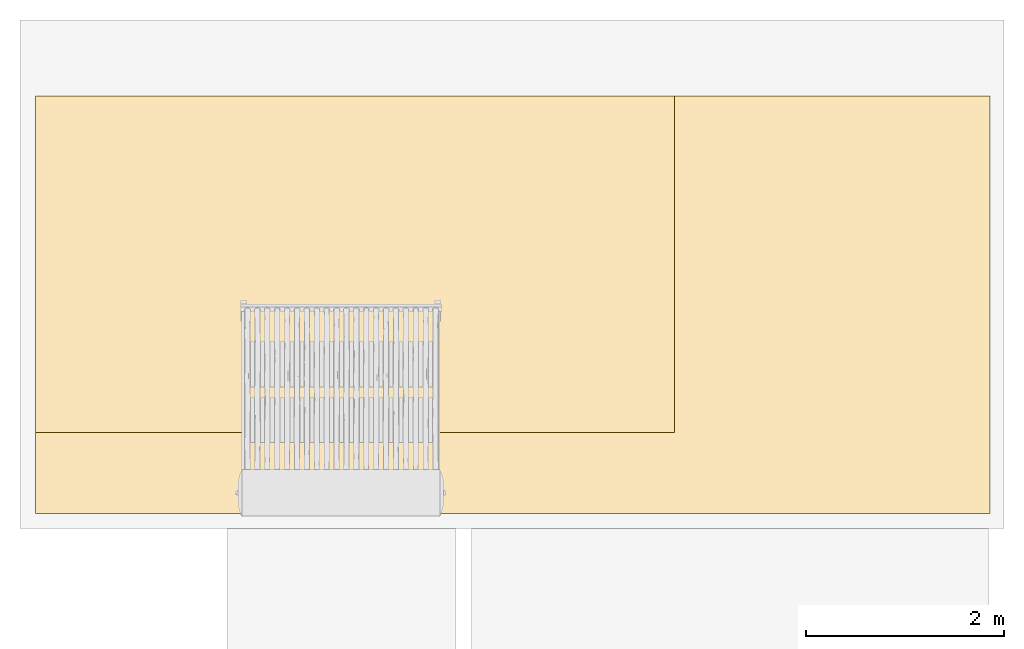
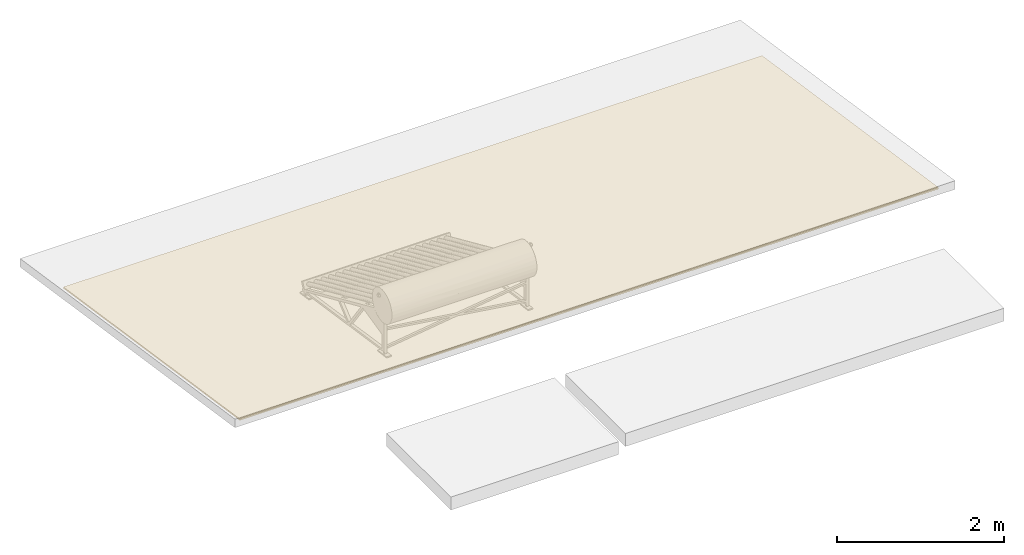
# One storey, part 2 of 2: 2 coverings.
"""IFC2X3 building model written with IfcOpenShell, lengths in metres."""

from ifc_helpers import new_model, entity, si_unit, converted_unit, derived_unit, direction, frame, origin, place, context, subcontext, project, spatial, faceted_brep, material, layer, layer_set, layer_usage, type_object, element, save


model = new_model("IFC2X3")

# Units and contexts
model_context = context("Model", 3, precision=1e-05, world=origin(), true_north=direction((6.12303176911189e-17, 1.0)))
body_context = subcontext(model_context, "Body", "Model", "MODEL_VIEW")
ifc_project = project(units=[si_unit("LENGTHUNIT", "METRE"), si_unit("AREAUNIT", "SQUARE_METRE"), si_unit("VOLUMEUNIT", "CUBIC_METRE"), converted_unit("PLANEANGLEUNIT", "DEGREE", entity("IfcRatioMeasure", 0.0174532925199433), si_unit("PLANEANGLEUNIT", "RADIAN"), dimensions=[0, 0, 0, 0, 0, 0, 0]), si_unit("MASSUNIT", "GRAM", prefix="KILO"), derived_unit("MASSDENSITYUNIT", [(si_unit("MASSUNIT", "GRAM", prefix="KILO"), 1), (si_unit("LENGTHUNIT", "METRE"), -3)]), si_unit("TIMEUNIT", "SECOND"), si_unit("FREQUENCYUNIT", "HERTZ"), si_unit("THERMODYNAMICTEMPERATUREUNIT", "DEGREE_CELSIUS"), derived_unit("THERMALTRANSMITTANCEUNIT", [(si_unit("MASSUNIT", "GRAM", prefix="KILO"), 1), (si_unit("THERMODYNAMICTEMPERATUREUNIT", "KELVIN"), -1), (si_unit("TIMEUNIT", "SECOND"), -3)]), derived_unit("VOLUMETRICFLOWRATEUNIT", [(si_unit("LENGTHUNIT", "METRE"), 3), (si_unit("TIMEUNIT", "SECOND"), -1)]), si_unit("ELECTRICCURRENTUNIT", "AMPERE"), si_unit("ELECTRICVOLTAGEUNIT", "VOLT"), si_unit("POWERUNIT", "WATT"), si_unit("FORCEUNIT", "NEWTON", prefix="KILO"), si_unit("ILLUMINANCEUNIT", "LUX"), si_unit("LUMINOUSFLUXUNIT", "LUMEN"), si_unit("LUMINOUSINTENSITYUNIT", "CANDELA"), derived_unit("USERDEFINED", [(si_unit("MASSUNIT", "GRAM", prefix="KILO"), -1), (si_unit("LENGTHUNIT", "METRE"), -2), (si_unit("TIMEUNIT", "SECOND"), 3), (si_unit("LUMINOUSFLUXUNIT", "LUMEN"), 1)]), derived_unit("LINEARVELOCITYUNIT", [(si_unit("LENGTHUNIT", "METRE"), 1), (si_unit("TIMEUNIT", "SECOND"), -1)]), si_unit("PRESSUREUNIT", "PASCAL"), derived_unit("USERDEFINED", [(si_unit("LENGTHUNIT", "METRE"), -2), (si_unit("MASSUNIT", "GRAM", prefix="KILO"), 1), (si_unit("TIMEUNIT", "SECOND"), -2)])], contexts=[model_context])

# Site, building, storey
site_placement = place(None, origin())
site = spatial("IfcSite", under=ifc_project, at=site_placement, Name="Surface", CompositionType="ELEMENT")
building_placement = place(site_placement, origin())
building = spatial("IfcBuilding", under=site, at=building_placement, CompositionType="ELEMENT")
storey_placement = place(building_placement, frame((0.0, 0.0, 2.69999999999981)))
storey = spatial("IfcBuildingStorey", under=building, at=storey_placement, Name="Nivel 1", CompositionType="ELEMENT", Elevation=2.69999999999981)

# Coverings
ifc_material = material(Name="Cielorraso aplicado de yeso")
ifc_layer = layer(ifc_material, 0.02)
ifc_layer_set = layer_set([ifc_layer], Name="Compound Ceiling:1282-Aplicado de yeso")
ifc_layer_usage_1 = layer_usage(ifc_layer_set, "AXIS3", "POSITIVE", 0.0)
covering_type_1 = type_object("IfcCoveringType", Name="Compound Ceiling:1282-Aplicado de yeso", PredefinedType="CEILING")
covering_1_placement = place(storey_placement, frame((-8.84071836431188, -1.66248080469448, 0.097943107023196)))
element("IfcCovering", 1, at=covering_1_placement, inside=storey, type_object=covering_type_1, material=ifc_layer_usage_1, Name="Compound Ceiling:1282-Aplicado de yeso", ObjectType="Compound Ceiling:1282-Aplicado de yeso", PredefinedType="CEILING", context=body_context, shape_type="Brep", body=[
    faceted_brep([(9.64000000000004, 0.0, 0.650300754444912), (9.64000000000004, 4.20051337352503, 0.0202237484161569), (0.0, 4.20051337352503, 0.0202237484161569), (0.0, 0.0, 0.650300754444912), (9.64000000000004, 0.0, 0.630077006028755), (0.0, 0.0, 0.630077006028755), (0.0, 4.20051337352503, 0.0), (9.64000000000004, 4.20051337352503, 0.0)], [[[0, 1, 2, 3]], [[4, 5, 6, 7]], [[1, 0, 4, 7]], [[2, 1, 7, 6]], [[3, 2, 6, 5]], [[0, 3, 5, 4]]]),
])
ifc_layer_usage_2 = layer_usage(ifc_layer_set, "AXIS3", "POSITIVE", 0.0)
covering_type_2 = type_object("IfcCoveringType", Name="Compound Ceiling:1282-Aplicado de yeso", PredefinedType="CEILING")
covering_2_placement = place(storey_placement, frame((-8.84158547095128, -1.67954870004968, 0.0979431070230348)))
element("IfcCovering", 2, at=covering_2_placement, inside=storey, type_object=covering_type_2, material=ifc_layer_usage_2, Name="Compound Ceiling:1282-Aplicado de yeso", ObjectType="Compound Ceiling:1282-Aplicado de yeso", PredefinedType="CEILING", context=body_context, shape_type="Brep", body=[
    faceted_brep([(9.64000000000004, 0.0, 0.652813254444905), (9.64000000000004, 4.21726337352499, 0.0202237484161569), (6.45286698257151, 4.21726337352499, 0.0202237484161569), (6.45286698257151, 0.820076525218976, 0.529801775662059), (0.0, 0.820076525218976, 0.529801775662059), (0.0, 0.0, 0.652813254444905), (9.64000000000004, 0.0, 0.632589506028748), (0.0, 0.0, 0.632589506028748), (0.0, 0.820076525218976, 0.509578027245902), (6.45286698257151, 0.820076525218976, 0.509578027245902), (6.45286698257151, 4.21726337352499, 0.0), (9.64000000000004, 4.21726337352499, 0.0)], [[[0, 1, 2, 3, 4, 5]], [[6, 7, 8, 9, 10, 11]], [[1, 0, 6, 11]], [[2, 1, 11, 10]], [[5, 4, 8, 7]], [[0, 5, 7, 6]], [[3, 2, 10, 9]], [[4, 3, 9, 8]]]),
])

save(model, "model.ifc")
